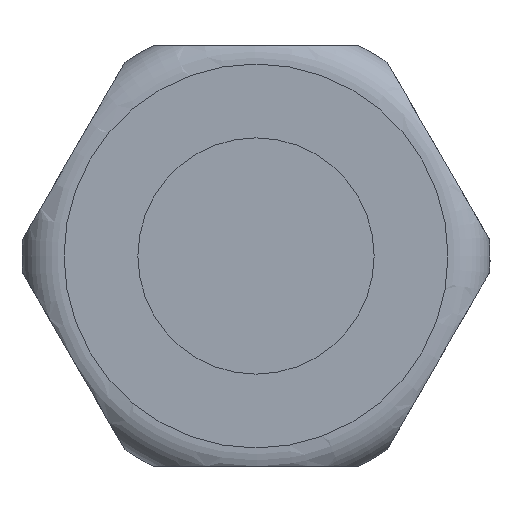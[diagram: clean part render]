
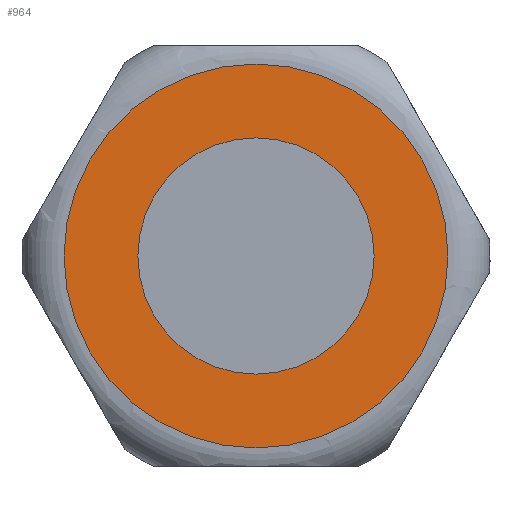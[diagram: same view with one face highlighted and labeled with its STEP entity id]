
A CAD part, left-side view. The second image highlights one B-rep face of the part: STEP entity #964.
In plain terms, the highlighted planar face has unit normal (-1, 0, 0).
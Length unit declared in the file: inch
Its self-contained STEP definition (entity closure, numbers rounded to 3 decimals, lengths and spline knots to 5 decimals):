
#16=FACE_BOUND('',#144,.T.);
#58=PLANE('',#1066);
#90=FACE_OUTER_BOUND('',#143,.T.);
#143=EDGE_LOOP('',(#691,#692));
#144=EDGE_LOOP('',(#693,#694));
#256=CIRCLE('',#1022,0.31496);
#257=CIRCLE('',#1023,0.31496);
#283=CIRCLE('',#1067,0.51181);
#284=CIRCLE('',#1068,0.51181);
#348=VERTEX_POINT('',#1493);
#349=VERTEX_POINT('',#1494);
#388=VERTEX_POINT('',#1754);
#389=VERTEX_POINT('',#1755);
#450=EDGE_CURVE('',#348,#349,#256,.T.);
#451=EDGE_CURVE('',#349,#348,#257,.T.);
#507=EDGE_CURVE('',#388,#389,#283,.T.);
#508=EDGE_CURVE('',#389,#388,#284,.T.);
#691=ORIENTED_EDGE('',*,*,#507,.F.);
#692=ORIENTED_EDGE('',*,*,#508,.F.);
#693=ORIENTED_EDGE('',*,*,#450,.T.);
#694=ORIENTED_EDGE('',*,*,#451,.T.);
#964=ADVANCED_FACE('',(#90,#16),#58,.T.);
#1022=AXIS2_PLACEMENT_3D('',#1495,#1170,#1171);
#1023=AXIS2_PLACEMENT_3D('',#1496,#1172,#1173);
#1066=AXIS2_PLACEMENT_3D('',#1753,#1274,#1275);
#1067=AXIS2_PLACEMENT_3D('',#1756,#1276,#1277);
#1068=AXIS2_PLACEMENT_3D('',#1757,#1278,#1279);
#1170=DIRECTION('center_axis',(1.,0.,0.));
#1171=DIRECTION('ref_axis',(0.,0.866,0.5));
#1172=DIRECTION('center_axis',(1.,0.,0.));
#1173=DIRECTION('ref_axis',(0.,0.866,0.5));
#1274=DIRECTION('center_axis',(-1.,0.,0.));
#1275=DIRECTION('ref_axis',(0.,0.866,0.5));
#1276=DIRECTION('center_axis',(1.,0.,0.));
#1277=DIRECTION('ref_axis',(0.,-0.866,-0.5));
#1278=DIRECTION('center_axis',(1.,0.,0.));
#1279=DIRECTION('ref_axis',(0.,-0.866,-0.5));
#1493=CARTESIAN_POINT('',(-2.39188,0.37407,-0.18686));
#1494=CARTESIAN_POINT('',(-2.39188,-0.17146,-0.50182));
#1495=CARTESIAN_POINT('Origin',(-2.39188,0.1013,-0.34434));
#1496=CARTESIAN_POINT('Origin',(-2.39188,0.1013,-0.34434));
#1753=CARTESIAN_POINT('Origin',(-2.39188,-0.34194,-0.60025));
#1754=CARTESIAN_POINT('',(-2.39188,-0.34194,-0.60025));
#1755=CARTESIAN_POINT('',(-2.39188,0.54454,-0.08844));
#1756=CARTESIAN_POINT('Origin',(-2.39188,0.1013,-0.34434));
#1757=CARTESIAN_POINT('Origin',(-2.39188,0.1013,-0.34434));
